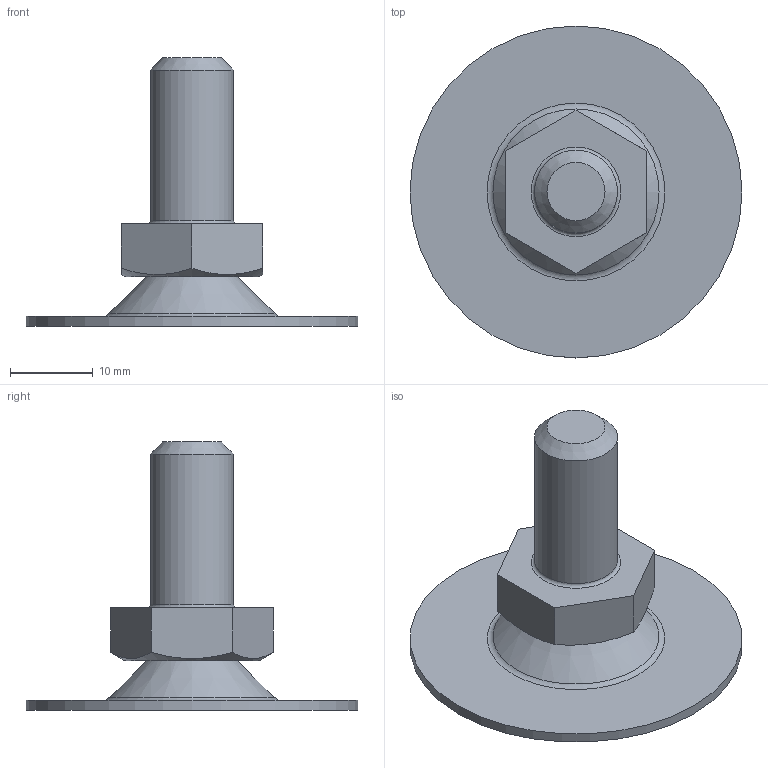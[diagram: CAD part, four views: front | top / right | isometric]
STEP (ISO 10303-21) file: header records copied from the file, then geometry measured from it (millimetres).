
FILE_DESCRIPTION(('STEP AP203'), '1');
FILE_NAME('A00050.1041016', '', ('UNSPECIFIED'), ('UNSPECIFIED'), 'C3D Converter', 'C3D Toolkit', '');
FILE_SCHEMA(('CONFIG_CONTROL_DESIGN'));
Length unit declared in the file: millimetre
Products named in the file (4): A00050.1041020; A00050.1040
Assembly tree (3 placements, depth 2):
  A00050.1041020
    A00050.1040
    (unnamed)
    (unnamed)
Bounding box: 40 x 40 x 32.38 mm (x, y, z)
Volume: 4742.3 mm3; surface area: 4728.3 mm2
Topology: 3 solids, 3 shells, 58 faces, 130 edges, 82 vertices
Faces by surface type: plane 28, torus 8, bspline 8, cone 7, cylinder 6, sphere 1
Full cylindrical faces by diameter (mm): 3.3 x1, 4 x1, 4.5 x1, 8 x1, 10 x1, 40 x1
Entity records: 2171 total; most frequent: CARTESIAN_POINT 784, DIRECTION 242, ORIENTED_EDGE 214, EDGE_CURVE 107, AXIS2_PLACEMENT_3D 95, EDGE_LOOP 86, VERTEX_POINT 81, ADVANCED_FACE 58
